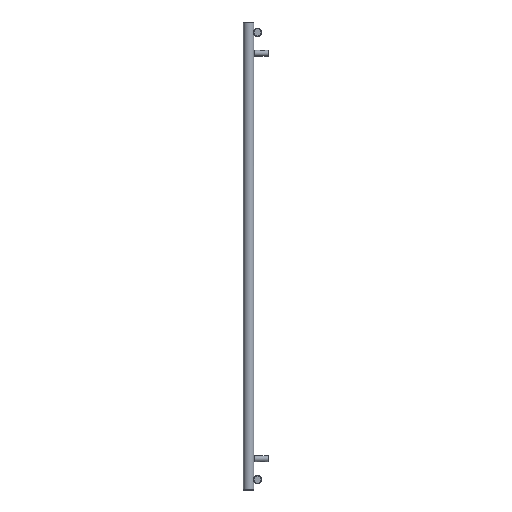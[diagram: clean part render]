
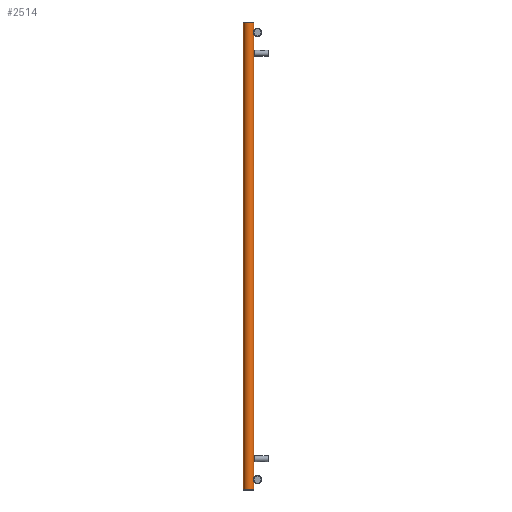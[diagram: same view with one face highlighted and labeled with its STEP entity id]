
A CAD part, left-side view. The second image highlights one B-rep face of the part: STEP entity #2514.
In plain terms, the highlighted cylindrical face has radius 20 mm (diameter 40 mm), a full revolution.
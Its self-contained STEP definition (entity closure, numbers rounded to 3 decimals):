
#184=FACE_BOUND('',#600,.T.);
#185=FACE_BOUND('',#601,.T.);
#231=LINE('',#4267,#310);
#310=VECTOR('',#3106,20.);
#389=CYLINDRICAL_SURFACE('',#2728,20.);
#426=FACE_OUTER_BOUND('',#599,.T.);
#599=EDGE_LOOP('',(#1745,#1746,#1747,#1748,#1749));
#600=EDGE_LOOP('',(#1750));
#601=EDGE_LOOP('',(#1751));
#808=B_SPLINE_CURVE_WITH_KNOTS('',3,(#4067,#4068,#4069,#4070,#4071,#4072,
#4073,#4074,#4075,#4076,#4077,#4078,#4079,#4080,#4081,#4082,#4083,#4084,
#4085,#4086),.UNSPECIFIED.,.T.,.F.,(4,1,1,1,1,1,1,1,1,1,1,1,1,1,1,1,1,4),
(-5.132,-4.765,-4.399,-3.91,
-3.788,-3.666,-3.421,-3.177,
-2.933,-2.444,-2.199,-1.955,
-1.711,-1.466,-1.1,-0.733,
-0.367,0.),.UNSPECIFIED.);
#817=B_SPLINE_CURVE_WITH_KNOTS('',3,(#4271,#4272,#4273,#4274,#4275,#4276,
#4277,#4278,#4279,#4280,#4281,#4282,#4283,#4284,#4285,#4286,#4287,#4288,
#4289,#4290,#4291,#4292,#4293,#4294,#4295,#4296,#4297,#4298,#4299,#4300,
#4301,#4302,#4303,#4304,#4305,#4306,#4307,#4308,#4309,#4310,#4311,#4312,
#4313,#4314,#4315,#4316,#4317,#4318,#4319,#4320,#4321,#4322,#4323,#4324,
#4325,#4326,#4327,#4328,#4329,#4330,#4331,#4332,#4333,#4334,#4335,#4336,
#4337,#4338,#4339,#4340),.UNSPECIFIED.,.T.,.F.,(4,3,3,3,3,3,3,3,3,3,3,3,
3,3,3,3,3,3,3,3,3,3,3,4),(-5.132,-4.765,-4.582,
-4.399,-4.338,-4.277,-4.154,
-3.91,-3.788,-3.666,-3.421,
-3.177,-2.933,-2.444,-2.199,
-2.077,-1.955,-1.711,-1.466,
-1.283,-1.1,-0.733,-0.367,
0.),.UNSPECIFIED.);
#883=CIRCLE('',#2729,20.);
#884=CIRCLE('',#2730,20.);
#885=CIRCLE('',#2731,20.);
#1085=VERTEX_POINT('',#4044);
#1097=VERTEX_POINT('',#4263);
#1098=VERTEX_POINT('',#4264);
#1099=VERTEX_POINT('',#4266);
#1100=VERTEX_POINT('',#4270);
#1347=EDGE_CURVE('',#1085,#1085,#808,.T.);
#1359=EDGE_CURVE('',#1097,#1098,#883,.T.);
#1360=EDGE_CURVE('',#1097,#1099,#231,.T.);
#1361=EDGE_CURVE('',#1099,#1099,#884,.T.);
#1362=EDGE_CURVE('',#1098,#1097,#885,.T.);
#1363=EDGE_CURVE('',#1100,#1100,#817,.T.);
#1745=ORIENTED_EDGE('',*,*,#1359,.F.);
#1746=ORIENTED_EDGE('',*,*,#1360,.T.);
#1747=ORIENTED_EDGE('',*,*,#1361,.F.);
#1748=ORIENTED_EDGE('',*,*,#1360,.F.);
#1749=ORIENTED_EDGE('',*,*,#1362,.F.);
#1750=ORIENTED_EDGE('',*,*,#1363,.F.);
#1751=ORIENTED_EDGE('',*,*,#1347,.F.);
#2514=ADVANCED_FACE('',(#426,#184,#185),#389,.T.);
#2728=AXIS2_PLACEMENT_3D('',#4262,#3102,#3103);
#2729=AXIS2_PLACEMENT_3D('',#4265,#3104,#3105);
#2730=AXIS2_PLACEMENT_3D('',#4268,#3107,#3108);
#2731=AXIS2_PLACEMENT_3D('',#4269,#3109,#3110);
#3102=DIRECTION('center_axis',(0.,0.,1.));
#3103=DIRECTION('ref_axis',(-1.,0.,0.));
#3104=DIRECTION('center_axis',(0.,0.,1.));
#3105=DIRECTION('ref_axis',(-1.,0.,0.));
#3106=DIRECTION('',(0.,0.,-1.));
#3107=DIRECTION('center_axis',(0.,0.,-1.));
#3108=DIRECTION('ref_axis',(-1.,0.,0.));
#3109=DIRECTION('center_axis',(0.,0.,1.));
#3110=DIRECTION('ref_axis',(-1.,0.,0.));
#4044=CARTESIAN_POINT('',(-440.,-20.,50.1));
#4067=CARTESIAN_POINT('Ctrl Pts',(-440.,-20.,50.1));
#4068=CARTESIAN_POINT('Ctrl Pts',(-441.611,-20.,50.1));
#4069=CARTESIAN_POINT('Ctrl Pts',(-444.831,-19.609,49.581));
#4070=CARTESIAN_POINT('Ctrl Pts',(-449.316,-17.862,46.748));
#4071=CARTESIAN_POINT('Ctrl Pts',(-451.001,-16.692,42.521));
#4072=CARTESIAN_POINT('Ctrl Pts',(-450.992,-16.71,39.163));
#4073=CARTESIAN_POINT('Ctrl Pts',(-450.668,-16.917,36.969));
#4074=CARTESIAN_POINT('Ctrl Pts',(-449.648,-17.555,34.431));
#4075=CARTESIAN_POINT('Ctrl Pts',(-447.535,-18.589,32.082));
#4076=CARTESIAN_POINT('Ctrl Pts',(-443.836,-19.82,30.088));
#4077=CARTESIAN_POINT('Ctrl Pts',(-439.419,-20.202,29.641));
#4078=CARTESIAN_POINT('Ctrl Pts',(-435.239,-19.503,30.58));
#4079=CARTESIAN_POINT('Ctrl Pts',(-432.466,-18.591,32.084));
#4080=CARTESIAN_POINT('Ctrl Pts',(-430.351,-17.553,34.428));
#4081=CARTESIAN_POINT('Ctrl Pts',(-428.927,-16.66,37.981));
#4082=CARTESIAN_POINT('Ctrl Pts',(-428.921,-16.659,42.599));
#4083=CARTESIAN_POINT('Ctrl Pts',(-431.137,-18.052,47.027));
#4084=CARTESIAN_POINT('Ctrl Pts',(-435.165,-19.6,49.585));
#4085=CARTESIAN_POINT('Ctrl Pts',(-438.389,-20.,50.1));
#4086=CARTESIAN_POINT('Ctrl Pts',(-440.,-20.,50.1));
#4262=CARTESIAN_POINT('Origin',(-440.,0.,0.));
#4263=CARTESIAN_POINT('',(-420.,0.,1798.));
#4264=CARTESIAN_POINT('',(-460.,0.,1798.));
#4265=CARTESIAN_POINT('Origin',(-440.,0.,1798.));
#4266=CARTESIAN_POINT('',(-420.,0.,2.));
#4267=CARTESIAN_POINT('',(-420.,0.,0.));
#4268=CARTESIAN_POINT('Origin',(-440.,0.,2.));
#4269=CARTESIAN_POINT('Origin',(-440.,0.,1798.));
#4270=CARTESIAN_POINT('',(-440.,-20.,1770.1));
#4271=CARTESIAN_POINT('Ctrl Pts',(-440.,-20.,1770.1));
#4272=CARTESIAN_POINT('Ctrl Pts',(-441.611,-20.,1770.1));
#4273=CARTESIAN_POINT('Ctrl Pts',(-443.224,-19.796,1769.84));
#4274=CARTESIAN_POINT('Ctrl Pts',(-444.701,-19.44,1769.287));
#4275=CARTESIAN_POINT('Ctrl Pts',(-445.439,-19.262,1769.01));
#4276=CARTESIAN_POINT('Ctrl Pts',(-446.144,-19.045,1768.66));
#4277=CARTESIAN_POINT('Ctrl Pts',(-446.794,-18.811,1768.231));
#4278=CARTESIAN_POINT('Ctrl Pts',(-447.443,-18.576,1767.803));
#4279=CARTESIAN_POINT('Ctrl Pts',(-448.038,-18.323,1767.295));
#4280=CARTESIAN_POINT('Ctrl Pts',(-448.559,-18.076,1766.713));
#4281=CARTESIAN_POINT('Ctrl Pts',(-448.733,-17.994,1766.519));
#4282=CARTESIAN_POINT('Ctrl Pts',(-448.899,-17.912,1766.317));
#4283=CARTESIAN_POINT('Ctrl Pts',(-449.056,-17.832,1766.107));
#4284=CARTESIAN_POINT('Ctrl Pts',(-449.213,-17.753,1765.897));
#4285=CARTESIAN_POINT('Ctrl Pts',(-449.361,-17.675,1765.68));
#4286=CARTESIAN_POINT('Ctrl Pts',(-449.5,-17.6,1765.455));
#4287=CARTESIAN_POINT('Ctrl Pts',(-449.778,-17.45,1765.005));
#4288=CARTESIAN_POINT('Ctrl Pts',(-450.019,-17.311,1764.528));
#4289=CARTESIAN_POINT('Ctrl Pts',(-450.221,-17.191,1764.028));
#4290=CARTESIAN_POINT('Ctrl Pts',(-450.624,-16.951,1763.028));
#4291=CARTESIAN_POINT('Ctrl Pts',(-450.87,-16.788,1761.94));
#4292=CARTESIAN_POINT('Ctrl Pts',(-450.952,-16.734,1760.833));
#4293=CARTESIAN_POINT('Ctrl Pts',(-450.993,-16.707,1760.28));
#4294=CARTESIAN_POINT('Ctrl Pts',(-450.992,-16.708,1759.722));
#4295=CARTESIAN_POINT('Ctrl Pts',(-450.952,-16.735,1759.168));
#4296=CARTESIAN_POINT('Ctrl Pts',(-450.911,-16.761,1758.615));
#4297=CARTESIAN_POINT('Ctrl Pts',(-450.829,-16.814,1758.066));
#4298=CARTESIAN_POINT('Ctrl Pts',(-450.707,-16.892,1757.531));
#4299=CARTESIAN_POINT('Ctrl Pts',(-450.463,-17.047,1756.46));
#4300=CARTESIAN_POINT('Ctrl Pts',(-450.056,-17.3,1755.446));
#4301=CARTESIAN_POINT('Ctrl Pts',(-449.5,-17.6,1754.547));
#4302=CARTESIAN_POINT('Ctrl Pts',(-448.944,-17.899,1753.648));
#4303=CARTESIAN_POINT('Ctrl Pts',(-448.239,-18.245,1752.865));
#4304=CARTESIAN_POINT('Ctrl Pts',(-447.425,-18.571,1752.224));
#4305=CARTESIAN_POINT('Ctrl Pts',(-446.61,-18.897,1751.583));
#4306=CARTESIAN_POINT('Ctrl Pts',(-445.685,-19.205,1751.085));
#4307=CARTESIAN_POINT('Ctrl Pts',(-444.701,-19.442,1750.715));
#4308=CARTESIAN_POINT('Ctrl Pts',(-442.731,-19.916,1749.976));
#4309=CARTESIAN_POINT('Ctrl Pts',(-440.523,-20.108,1749.753));
#4310=CARTESIAN_POINT('Ctrl Pts',(-438.393,-19.938,1749.992));
#4311=CARTESIAN_POINT('Ctrl Pts',(-437.329,-19.853,1750.111));
#4312=CARTESIAN_POINT('Ctrl Pts',(-436.284,-19.677,1750.345));
#4313=CARTESIAN_POINT('Ctrl Pts',(-435.299,-19.438,1750.714));
#4314=CARTESIAN_POINT('Ctrl Pts',(-434.807,-19.319,1750.898));
#4315=CARTESIAN_POINT('Ctrl Pts',(-434.33,-19.184,1751.115));
#4316=CARTESIAN_POINT('Ctrl Pts',(-433.874,-19.038,1751.367));
#4317=CARTESIAN_POINT('Ctrl Pts',(-433.418,-18.891,1751.618));
#4318=CARTESIAN_POINT('Ctrl Pts',(-432.983,-18.733,1751.904));
#4319=CARTESIAN_POINT('Ctrl Pts',(-432.576,-18.57,1752.224));
#4320=CARTESIAN_POINT('Ctrl Pts',(-431.761,-18.244,1752.865));
#4321=CARTESIAN_POINT('Ctrl Pts',(-431.056,-17.899,1753.647));
#4322=CARTESIAN_POINT('Ctrl Pts',(-430.5,-17.599,1754.545));
#4323=CARTESIAN_POINT('Ctrl Pts',(-429.943,-17.299,1755.444));
#4324=CARTESIAN_POINT('Ctrl Pts',(-429.536,-17.046,1756.459));
#4325=CARTESIAN_POINT('Ctrl Pts',(-429.292,-16.891,1757.53));
#4326=CARTESIAN_POINT('Ctrl Pts',(-429.109,-16.775,1758.332));
#4327=CARTESIAN_POINT('Ctrl Pts',(-429.018,-16.714,1759.166));
#4328=CARTESIAN_POINT('Ctrl Pts',(-429.017,-16.714,1760.));
#4329=CARTESIAN_POINT('Ctrl Pts',(-429.017,-16.714,1760.834));
#4330=CARTESIAN_POINT('Ctrl Pts',(-429.108,-16.774,1761.668));
#4331=CARTESIAN_POINT('Ctrl Pts',(-429.292,-16.891,1762.47));
#4332=CARTESIAN_POINT('Ctrl Pts',(-429.66,-17.125,1764.075));
#4333=CARTESIAN_POINT('Ctrl Pts',(-430.399,-17.587,1765.551));
#4334=CARTESIAN_POINT('Ctrl Pts',(-431.44,-18.076,1766.715));
#4335=CARTESIAN_POINT('Ctrl Pts',(-432.481,-18.566,1767.879));
#4336=CARTESIAN_POINT('Ctrl Pts',(-433.823,-19.084,1768.732));
#4337=CARTESIAN_POINT('Ctrl Pts',(-435.3,-19.442,1769.287));
#4338=CARTESIAN_POINT('Ctrl Pts',(-436.777,-19.801,1769.842));
#4339=CARTESIAN_POINT('Ctrl Pts',(-438.389,-20.,1770.1));
#4340=CARTESIAN_POINT('Ctrl Pts',(-440.,-20.,1770.1));
